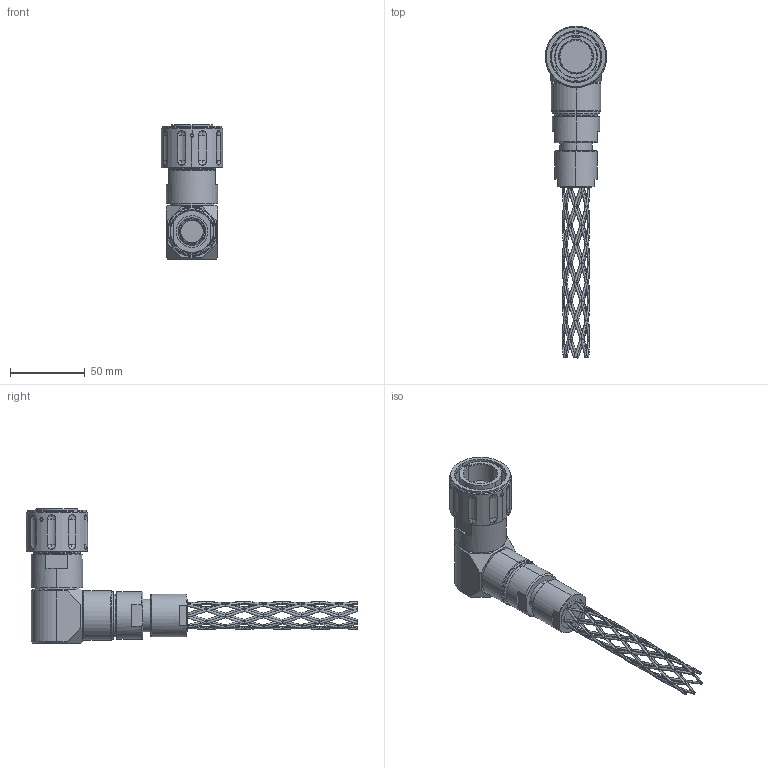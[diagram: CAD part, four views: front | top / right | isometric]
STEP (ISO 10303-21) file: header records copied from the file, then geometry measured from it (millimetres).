
FILE_DESCRIPTION (( 'STEP AP214' ), '1' );
FILE_NAME ('QLINK90-PGBX-19XX-GXXX-RA.STEP', '2025-12-09T16:21:00', ( '' ), ( '' ), 'SwSTEP 2.0', 'SolidWorks 2024', '' );
FILE_SCHEMA (( 'AUTOMOTIVE_DESIGN' ));
Length unit declared in the file: millimetre
Products named in the file (1): QLINK90-PGBX-19XX-GXXX-RA
Bounding box: 41.15 x 222.33 x 90.04 mm (x, y, z)
Volume: 139043.8 mm3; surface area: 34775 mm2
Topology: 5 solids, 7 shells, 526 faces, 1387 edges, 797 vertices
Faces by surface type: bspline 228, plane 100, cylinder 95, cone 54, sphere 36, torus 13
Entity records: 111579 total; most frequent: CARTESIAN_POINT 101090, ORIENTED_EDGE 2772, DIRECTION 1598, EDGE_CURVE 1386, VERTEX_POINT 797, AXIS2_PLACEMENT_3D 655, EDGE_LOOP 567, FACE_OUTER_BOUND 526
